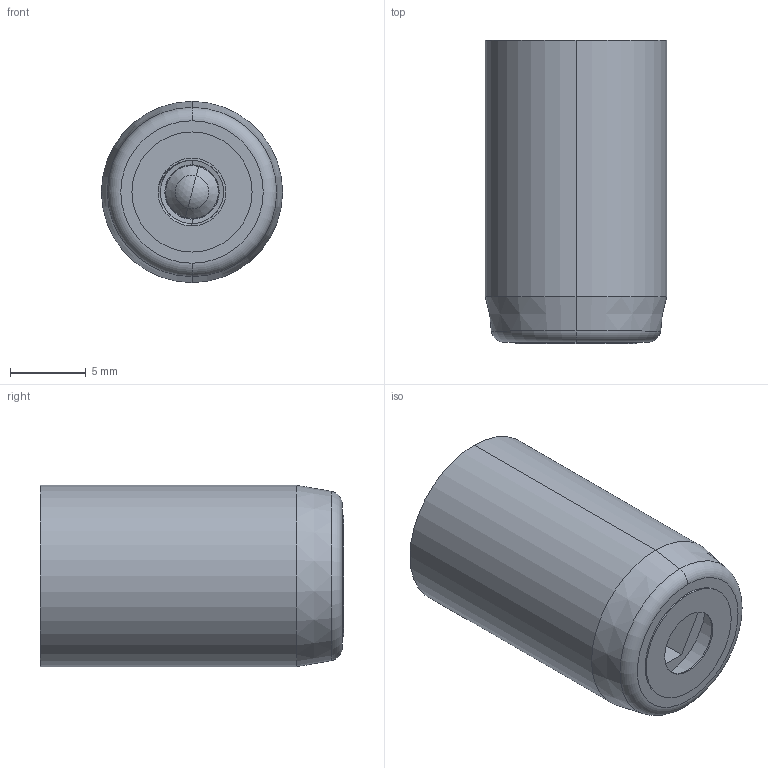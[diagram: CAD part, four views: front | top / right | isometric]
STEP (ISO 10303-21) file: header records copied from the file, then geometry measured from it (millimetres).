
FILE_DESCRIPTION (( 'STEP AP214' ), '1' );
FILE_NAME ('DFA 126708-21.STEP', '2020-08-11T10:18:18', ( '' ), ( '' ), 'SwSTEP 2.0', 'SolidWorks 2019', '' );
FILE_SCHEMA (( 'AUTOMOTIVE_DESIGN' ));
Length unit declared in the file: millimetre
Products named in the file (4): DFA 126700-2 comprimido; DFA 126708-14-1; DIA 6717SF; DFA 126708-21
Assembly tree (3 placements, depth 2):
  DFA 126708-21
    DFA 126708-14-1
    DIA 6717SF
    DFA 126700-2 comprimido
Bounding box: 12 x 20.1 x 12 mm (x, y, z)
Volume: 1789.1 mm3; surface area: 1938.5 mm2
Topology: 4 solids, 4 shells, 313 faces, 809 edges, 529 vertices
Faces by surface type: bspline 139, plane 119, cylinder 29, cone 16, torus 8, sphere 2
Entity records: 17322 total; most frequent: CARTESIAN_POINT 10376, ORIENTED_EDGE 1618, DIRECTION 981, EDGE_CURVE 809, VERTEX_POINT 529, VECTOR 433, LINE 433, EDGE_LOOP 346
